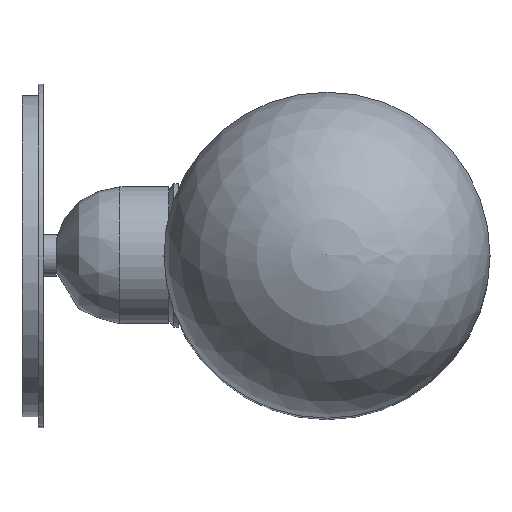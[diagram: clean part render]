
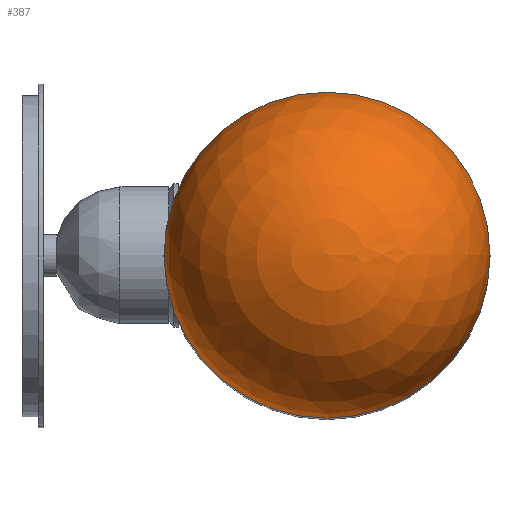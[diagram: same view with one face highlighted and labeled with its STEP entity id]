
A CAD part, top view. The second image highlights one B-rep face of the part: STEP entity #387.
In plain terms, the highlighted spherical face has radius 50 mm.
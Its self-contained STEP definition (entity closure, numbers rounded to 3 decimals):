
#13=SPHERICAL_SURFACE('',#455,50.);
#65=FACE_OUTER_BOUND('',#94,.T.);
#94=EDGE_LOOP('',(#327,#328,#329,#330));
#114=CIRCLE('',#450,50.);
#116=CIRCLE('',#452,50.);
#117=CIRCLE('',#456,50.);
#190=VERTEX_POINT('',#691);
#191=VERTEX_POINT('',#692);
#195=VERTEX_POINT('',#2031);
#234=EDGE_CURVE('',#190,#191,#114,.T.);
#237=EDGE_CURVE('',#191,#190,#116,.T.);
#241=EDGE_CURVE('',#195,#191,#117,.T.);
#327=ORIENTED_EDGE('',*,*,#234,.T.);
#328=ORIENTED_EDGE('',*,*,#241,.F.);
#329=ORIENTED_EDGE('',*,*,#241,.T.);
#330=ORIENTED_EDGE('',*,*,#237,.T.);
#387=ADVANCED_FACE('',(#65),#13,.T.);
#450=AXIS2_PLACEMENT_3D('',#693,#553,#554);
#452=AXIS2_PLACEMENT_3D('',#697,#558,#559);
#455=AXIS2_PLACEMENT_3D('',#2030,#565,#566);
#456=AXIS2_PLACEMENT_3D('',#2032,#567,#568);
#553=DIRECTION('center_axis',(0.,0.,
1.));
#554=DIRECTION('ref_axis',(0.,1.,0.));
#558=DIRECTION('center_axis',(0.,0.,
1.));
#559=DIRECTION('ref_axis',(0.,1.,0.));
#565=DIRECTION('center_axis',(0.,0.,
1.));
#566=DIRECTION('ref_axis',(-1.,0.,0.));
#567=DIRECTION('center_axis',(0.,1.,0.));
#568=DIRECTION('ref_axis',(1.,0.,0.));
#691=CARTESIAN_POINT('',(0.,50.,327.5));
#692=CARTESIAN_POINT('',(50.,0.,327.5));
#693=CARTESIAN_POINT('Origin',(0.,0.,
327.5));
#697=CARTESIAN_POINT('Origin',(0.,0.,
327.5));
#2030=CARTESIAN_POINT('Origin',(0.,0.,
327.5));
#2031=CARTESIAN_POINT('',(0.,0.,377.5));
#2032=CARTESIAN_POINT('Origin',(0.,0.,
327.5));
